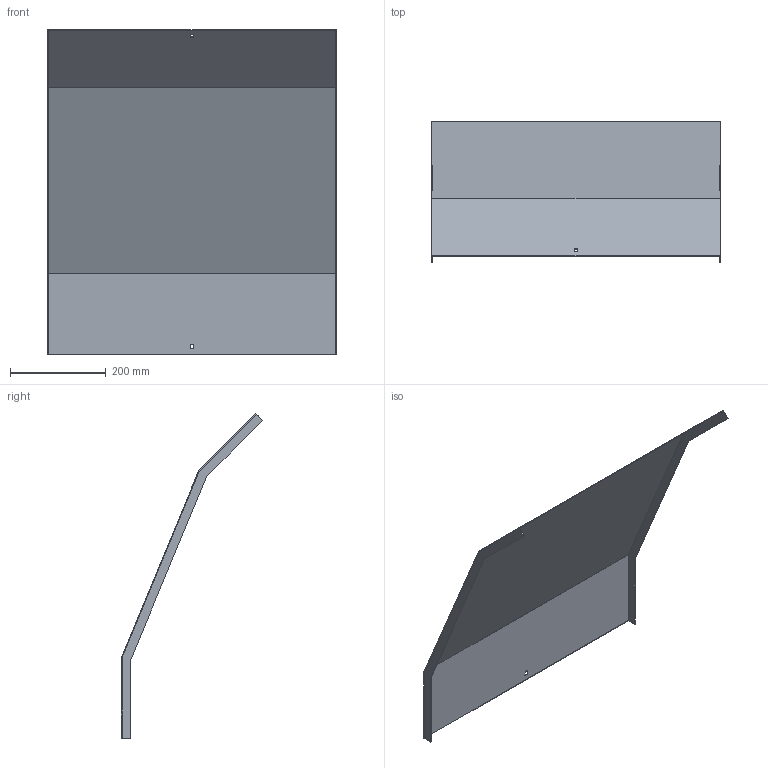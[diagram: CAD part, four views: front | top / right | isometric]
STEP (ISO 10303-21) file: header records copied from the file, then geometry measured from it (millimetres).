
FILE_DESCRIPTION (( 'STEP AP214' ), '1' );
FILE_NAME ('34N5C600.step', '2025-02-21T10:32:47', ( '' ), ( '' ), 'SwSTEP 2.0', 'SolidWorks 2023', '' );
FILE_SCHEMA (( 'AUTOMOTIVE_DESIGN' ));
Length unit declared in the file: millimetre
Products named in the file (1): 34N5C600
Bounding box: 603 x 294.72 x 677.38 mm (x, y, z)
Volume: 727366.5 mm3; surface area: 974065.8 mm2
Topology: 1 solids, 1 shells, 26 faces, 72 edges, 48 vertices
Faces by surface type: plane 26
Entity records: 847 total; most frequent: CARTESIAN_POINT 147, ORIENTED_EDGE 144, DIRECTION 126, LINE 72, EDGE_CURVE 72, VECTOR 72, VERTEX_POINT 48, EDGE_LOOP 30
